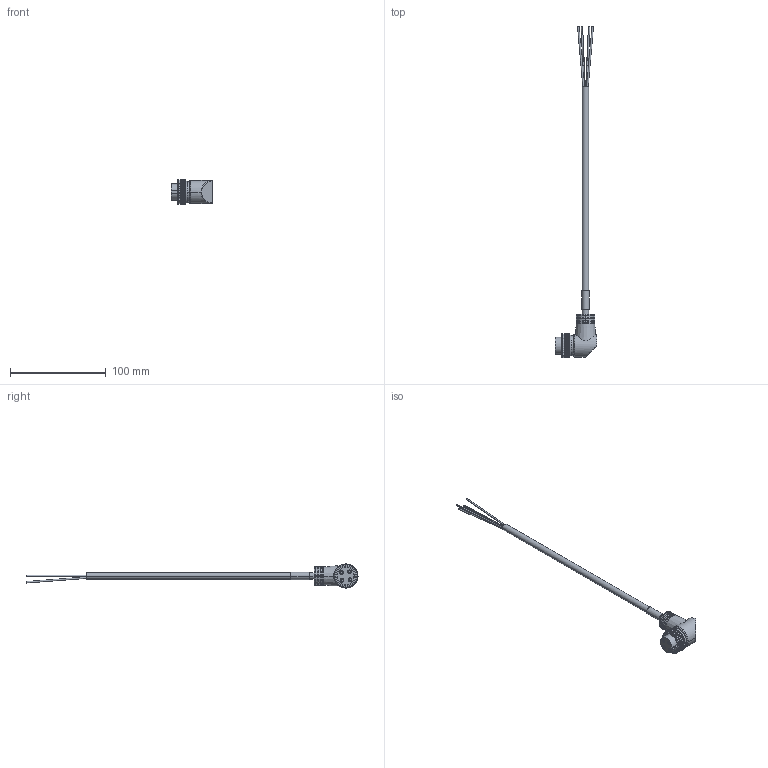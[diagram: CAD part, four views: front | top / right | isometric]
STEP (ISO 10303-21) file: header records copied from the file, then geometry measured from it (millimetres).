
FILE_DESCRIPTION((''),'2;1');
FILE_NAME('889N-R4GEC-6F','2014-04-01T',('20019289'),('Rockwell Automation'),'PRO/ENGINEER BY PARAMETRIC TECHNOLOGY CORPORATION, 2010140','PRO/ENGINEER BY PARAMETRIC TECHNOLOGY CORPORATION, 2010140','');
FILE_SCHEMA(('CONFIG_CONTROL_DESIGN'));
Length unit declared in the file: inch
Products named in the file (1): 889N-R4GEC-6F
Bounding box: 43.69 x 346.28 x 25.4 mm (x, y, z)
Volume: 31399.6 mm3; surface area: 14012 mm2
Topology: 1 solids, 1 shells, 472 faces, 1111 edges, 659 vertices
Faces by surface type: plane 230, cylinder 175, cone 48, torus 15, bspline 2, sphere 2
Entity records: 13926 total; most frequent: CARTESIAN_POINT 3017, DIRECTION 2379, ORIENTED_EDGE 2222, EDGE_CURVE 1111, AXIS2_PLACEMENT_3D 922, VERTEX_POINT 659, VECTOR 535, LINE 535
